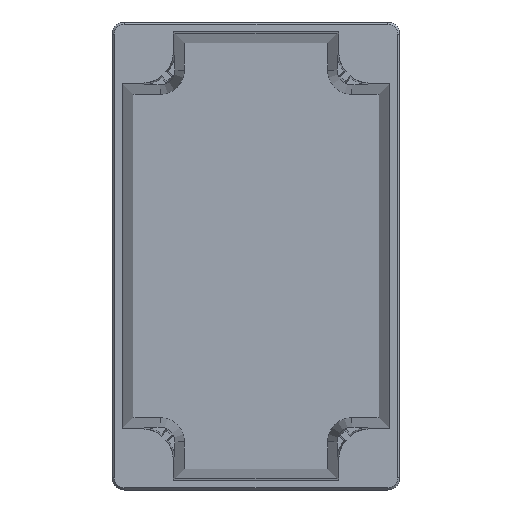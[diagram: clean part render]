
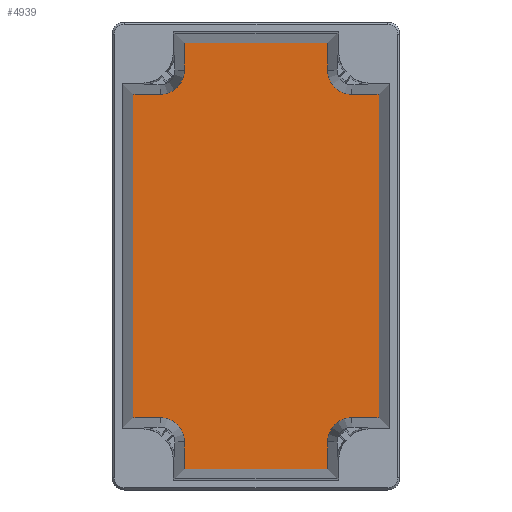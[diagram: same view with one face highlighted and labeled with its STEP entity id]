
A CAD part, front view. The second image highlights one B-rep face of the part: STEP entity #4939.
In plain terms, the highlighted planar face has unit normal (0, -1, 0).
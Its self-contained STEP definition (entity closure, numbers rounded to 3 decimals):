
#2369 = CARTESIAN_POINT ( 'NONE',  ( 19.898, 74.3, -51.634 ) ) ;
#2370 = DIRECTION ( 'NONE',  ( 0., 0., 1. ) ) ;
#2371 = VECTOR ( 'NONE', #2370, 1000. ) ;
#2372 = CARTESIAN_POINT ( 'NONE',  ( 19.898, 74.3, -51.634 ) ) ;
#2373 = LINE ( 'NONE', #2372, #2371 ) ;
#2649 = DIRECTION ( 'NONE',  ( 1., 0., 0. ) ) ;
#2650 = VECTOR ( 'NONE', #2649, 1000. ) ;
#2651 = CARTESIAN_POINT ( 'NONE',  ( 36.779, 74.3, -44.898 ) ) ;
#2652 = LINE ( 'NONE', #2651, #2650 ) ;
#2653 = CARTESIAN_POINT ( 'NONE',  ( 34.148, 74.3, -44.898 ) ) ;
#2659 = DIRECTION ( 'NONE',  ( -1., 0., 0. ) ) ;
#2660 = VECTOR ( 'NONE', #2659, 1000. ) ;
#2661 = CARTESIAN_POINT ( 'NONE',  ( 22.529, 74.3, 59.148 ) ) ;
#2662 = LINE ( 'NONE', #2661, #2660 ) ;
#2663 = VECTOR ( 'NONE', #2755, 1000. ) ;
#2668 = CARTESIAN_POINT ( 'NONE',  ( -19.898, 74.3, -59.148 ) ) ;
#2669 = DIRECTION ( 'NONE',  ( 0., 0., -1. ) ) ;
#2670 = VECTOR ( 'NONE', #2669, 1000. ) ;
#2671 = CARTESIAN_POINT ( 'NONE',  ( -19.898, 74.3, -51.634 ) ) ;
#2672 = LINE ( 'NONE', #2671, #2670 ) ;
#2673 = CARTESIAN_POINT ( 'NONE',  ( -19.898, 74.3, -51.634 ) ) ;
#2674 = DIRECTION ( 'NONE',  ( 0., 0., 1. ) ) ;
#2675 = DIRECTION ( 'NONE',  ( 0., 1., 0. ) ) ;
#2676 = CARTESIAN_POINT ( 'NONE',  ( -26.634, 74.3, -51.634 ) ) ;
#2677 = AXIS2_PLACEMENT_3D ( 'NONE', #2676, #2675, #2674 ) ;
#2678 = CIRCLE ( 'NONE', #2677, 6.736 ) ;
#2679 = DIRECTION ( 'NONE',  ( 0., 0., -1. ) ) ;
#2680 = VECTOR ( 'NONE', #2679, 1000. ) ;
#2681 = CARTESIAN_POINT ( 'NONE',  ( -19.898, 74.3, 51.634 ) ) ;
#2682 = LINE ( 'NONE', #2681, #2680 ) ;
#2683 = CARTESIAN_POINT ( 'NONE',  ( -19.898, 74.3, 59.148 ) ) ;
#2722 = CIRCLE ( 'NONE', #2786, 6.736 ) ;
#2742 = CARTESIAN_POINT ( 'NONE',  ( 19.898, 74.3, 59.148 ) ) ;
#2755 = DIRECTION ( 'NONE',  ( 0., 0., 1. ) ) ;
#2756 = CARTESIAN_POINT ( 'NONE',  ( 19.898, 74.3, 51.634 ) ) ;
#2757 = LINE ( 'NONE', #2756, #2663 ) ;
#2761 = DIRECTION ( 'NONE',  ( -1., 0., 0. ) ) ;
#2762 = VECTOR ( 'NONE', #2761, 1000. ) ;
#2763 = CARTESIAN_POINT ( 'NONE',  ( 36.779, 74.3, 44.898 ) ) ;
#2764 = LINE ( 'NONE', #2763, #2762 ) ;
#2771 = CARTESIAN_POINT ( 'NONE',  ( 19.898, 74.3, 51.634 ) ) ;
#2772 = CARTESIAN_POINT ( 'NONE',  ( 26.634, 74.3, 44.898 ) ) ;
#2773 = DIRECTION ( 'NONE',  ( 0., 0., 1. ) ) ;
#2774 = DIRECTION ( 'NONE',  ( 0., 1., 0. ) ) ;
#2775 = CARTESIAN_POINT ( 'NONE',  ( 26.634, 74.3, 51.634 ) ) ;
#2776 = AXIS2_PLACEMENT_3D ( 'NONE', #2775, #2774, #2773 ) ;
#2777 = CIRCLE ( 'NONE', #2776, 6.736 ) ;
#2778 = CARTESIAN_POINT ( 'NONE',  ( 34.148, 74.3, 44.898 ) ) ;
#2779 = DIRECTION ( 'NONE',  ( 0., 0., 1. ) ) ;
#2780 = VECTOR ( 'NONE', #2779, 1000. ) ;
#2781 = CARTESIAN_POINT ( 'NONE',  ( 34.148, 74.3, -47.529 ) ) ;
#2782 = LINE ( 'NONE', #2781, #2780 ) ;
#2783 = DIRECTION ( 'NONE',  ( 0., 0., 1. ) ) ;
#2784 = DIRECTION ( 'NONE',  ( 0., 1., 0. ) ) ;
#2785 = CARTESIAN_POINT ( 'NONE',  ( 26.634, 74.3, -51.634 ) ) ;
#2786 = AXIS2_PLACEMENT_3D ( 'NONE', #2785, #2784, #2783 ) ;
#2791 = CARTESIAN_POINT ( 'NONE',  ( -26.634, 74.3, -44.898 ) ) ;
#2792 = DIRECTION ( 'NONE',  ( 1., 0., 0. ) ) ;
#2793 = VECTOR ( 'NONE', #2792, 1000. ) ;
#2794 = CARTESIAN_POINT ( 'NONE',  ( -36.779, 74.3, -44.898 ) ) ;
#2795 = LINE ( 'NONE', #2794, #2793 ) ;
#2796 = CARTESIAN_POINT ( 'NONE',  ( -34.148, 74.3, -44.898 ) ) ;
#2797 = DIRECTION ( 'NONE',  ( 0., 0., -1. ) ) ;
#2798 = VECTOR ( 'NONE', #2797, 1000. ) ;
#2799 = CARTESIAN_POINT ( 'NONE',  ( -34.148, 74.3, 47.529 ) ) ;
#2800 = LINE ( 'NONE', #2799, #2798 ) ;
#2802 = CARTESIAN_POINT ( 'NONE',  ( -34.148, 74.3, 44.898 ) ) ;
#2803 = DIRECTION ( 'NONE',  ( -1., 0., 0. ) ) ;
#2804 = VECTOR ( 'NONE', #2803, 1000. ) ;
#2805 = CARTESIAN_POINT ( 'NONE',  ( -36.779, 74.3, 44.898 ) ) ;
#2806 = LINE ( 'NONE', #2805, #2804 ) ;
#2807 = CARTESIAN_POINT ( 'NONE',  ( -26.634, 74.3, 44.898 ) ) ;
#2808 = DIRECTION ( 'NONE',  ( 0., 0., 1. ) ) ;
#2809 = DIRECTION ( 'NONE',  ( 0., 1., 0. ) ) ;
#2810 = CARTESIAN_POINT ( 'NONE',  ( -26.634, 74.3, 51.634 ) ) ;
#2811 = AXIS2_PLACEMENT_3D ( 'NONE', #2810, #2809, #2808 ) ;
#2812 = CIRCLE ( 'NONE', #2811, 6.736 ) ;
#2813 = CARTESIAN_POINT ( 'NONE',  ( -19.898, 74.3, 51.634 ) ) ;
#2882 = DIRECTION ( 'NONE',  ( 0., 0., 1. ) ) ;
#2883 = DIRECTION ( 'NONE',  ( 0., 1., 0. ) ) ;
#2884 = CARTESIAN_POINT ( 'NONE',  ( -31.75, 74.3, -56.75 ) ) ;
#2885 = AXIS2_PLACEMENT_3D ( 'NONE', #2884, #2883, #2882 ) ;
#2887 = PLANE ( 'NONE',  #2885 ) ;
#2888 = FACE_OUTER_BOUND ( 'NONE', #4940, .T. ) ;
#3001 = CARTESIAN_POINT ( 'NONE',  ( 26.634, 74.3, -44.898 ) ) ;
#4600 = EDGE_CURVE ( 'NONE', #5017, #4601, #2373, .T. ) ;
#4601 = VERTEX_POINT ( 'NONE', #2369 ) ;
#4809 = ORIENTED_EDGE ( 'NONE', *, *, #4810, .T. ) ;
#4810 = EDGE_CURVE ( 'NONE', #4601, #4952, #2722, .T. ) ;
#4811 = ORIENTED_EDGE ( 'NONE', *, *, #4813, .T. ) ;
#4812 = VERTEX_POINT ( 'NONE', #2653 ) ;
#4813 = EDGE_CURVE ( 'NONE', #4952, #4812, #2652, .T. ) ;
#4814 = ORIENTED_EDGE ( 'NONE', *, *, #4815, .T. ) ;
#4815 = EDGE_CURVE ( 'NONE', #4812, #4816, #2782, .T. ) ;
#4816 = VERTEX_POINT ( 'NONE', #2778 ) ;
#4817 = ORIENTED_EDGE ( 'NONE', *, *, #4818, .T. ) ;
#4818 = EDGE_CURVE ( 'NONE', #4816, #4822, #2764, .T. ) ;
#4820 = ORIENTED_EDGE ( 'NONE', *, *, #4821, .T. ) ;
#4821 = EDGE_CURVE ( 'NONE', #4822, #4823, #2777, .T. ) ;
#4822 = VERTEX_POINT ( 'NONE', #2772 ) ;
#4823 = VERTEX_POINT ( 'NONE', #2771 ) ;
#4824 = ORIENTED_EDGE ( 'NONE', *, *, #4839, .T. ) ;
#4825 = VERTEX_POINT ( 'NONE', #2742 ) ;
#4839 = EDGE_CURVE ( 'NONE', #4823, #4825, #2757, .T. ) ;
#4840 = ORIENTED_EDGE ( 'NONE', *, *, #4841, .T. ) ;
#4841 = EDGE_CURVE ( 'NONE', #4825, #4842, #2662, .T. ) ;
#4842 = VERTEX_POINT ( 'NONE', #2683 ) ;
#4843 = ORIENTED_EDGE ( 'NONE', *, *, #4844, .T. ) ;
#4844 = EDGE_CURVE ( 'NONE', #4842, #4845, #2682, .T. ) ;
#4845 = VERTEX_POINT ( 'NONE', #2813 ) ;
#4846 = ORIENTED_EDGE ( 'NONE', *, *, #4847, .T. ) ;
#4847 = EDGE_CURVE ( 'NONE', #4845, #4848, #2812, .T. ) ;
#4848 = VERTEX_POINT ( 'NONE', #2807 ) ;
#4849 = ORIENTED_EDGE ( 'NONE', *, *, #4850, .T. ) ;
#4850 = EDGE_CURVE ( 'NONE', #4848, #4851, #2806, .T. ) ;
#4851 = VERTEX_POINT ( 'NONE', #2802 ) ;
#4852 = ORIENTED_EDGE ( 'NONE', *, *, #4853, .T. ) ;
#4853 = EDGE_CURVE ( 'NONE', #4851, #4854, #2800, .T. ) ;
#4854 = VERTEX_POINT ( 'NONE', #2796 ) ;
#4855 = ORIENTED_EDGE ( 'NONE', *, *, #4856, .T. ) ;
#4856 = EDGE_CURVE ( 'NONE', #4854, #4857, #2795, .T. ) ;
#4857 = VERTEX_POINT ( 'NONE', #2791 ) ;
#4858 = ORIENTED_EDGE ( 'NONE', *, *, #4859, .T. ) ;
#4859 = EDGE_CURVE ( 'NONE', #4857, #4860, #2678, .T. ) ;
#4860 = VERTEX_POINT ( 'NONE', #2673 ) ;
#4861 = ORIENTED_EDGE ( 'NONE', *, *, #4862, .T. ) ;
#4862 = EDGE_CURVE ( 'NONE', #4860, #4863, #2672, .T. ) ;
#4863 = VERTEX_POINT ( 'NONE', #2668 ) ;
#4939 = ADVANCED_FACE ( 'NONE', ( #2888 ), #2887, .F. ) ;
#4940 = EDGE_LOOP ( 'NONE', ( #4820, #4824, #4840, #4843, #4846, #4849, #4852, #4855, #4858, #4861, #5015, #5018, #4809, #4811, #4814, #4817 ) ) ;
#4952 = VERTEX_POINT ( 'NONE', #3001 ) ;
#5015 = ORIENTED_EDGE ( 'NONE', *, *, #5016, .T. ) ;
#5016 = EDGE_CURVE ( 'NONE', #4863, #5017, #6054, .T. ) ;
#5017 = VERTEX_POINT ( 'NONE', #6053 ) ;
#5018 = ORIENTED_EDGE ( 'NONE', *, *, #4600, .T. ) ;
#6050 = DIRECTION ( 'NONE',  ( 1., 0., 0. ) ) ;
#6051 = VECTOR ( 'NONE', #6050, 1000. ) ;
#6052 = CARTESIAN_POINT ( 'NONE',  ( -22.529, 74.3, -59.148 ) ) ;
#6053 = CARTESIAN_POINT ( 'NONE',  ( 19.898, 74.3, -59.148 ) ) ;
#6054 = LINE ( 'NONE', #6052, #6051 ) ;
